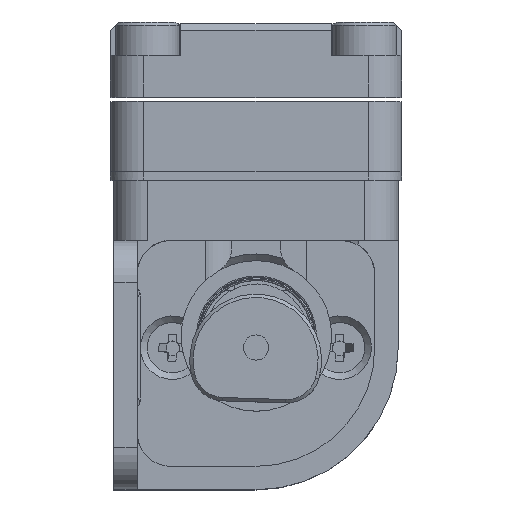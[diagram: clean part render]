
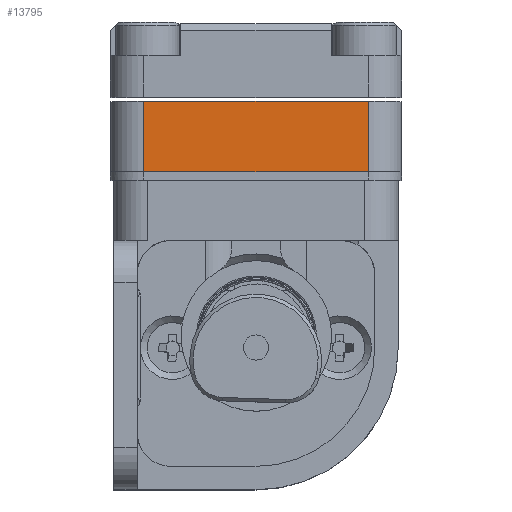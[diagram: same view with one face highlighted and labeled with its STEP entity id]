
A CAD part, top view. The second image highlights one B-rep face of the part: STEP entity #13795.
In plain terms, the highlighted planar face has unit normal (0, 0, -1).
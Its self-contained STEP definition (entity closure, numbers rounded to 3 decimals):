
#181 = LINE ( 'NONE', #10322, #2746 ) ;
#962 = EDGE_CURVE ( 'NONE', #4981, #7227, #12532, .T. ) ;
#1561 = VECTOR ( 'NONE', #13685, 1000. ) ;
#2034 = DIRECTION ( 'NONE',  ( 0., 0., -1. ) ) ;
#2181 = FACE_OUTER_BOUND ( 'NONE', #8153, .T. ) ;
#2316 = VERTEX_POINT ( 'NONE', #5889 ) ;
#2417 = LINE ( 'NONE', #9146, #12780 ) ;
#2746 = VECTOR ( 'NONE', #8212, 1000. ) ;
#3543 = VECTOR ( 'NONE', #5814, 1000. ) ;
#4261 = CARTESIAN_POINT ( 'NONE',  ( 8.7, 3.1, 8.7 ) ) ;
#4496 = CARTESIAN_POINT ( 'NONE',  ( 8.7, 7.3, 8.7 ) ) ;
#4658 = EDGE_CURVE ( 'NONE', #9859, #2316, #181, .T. ) ;
#4788 = ORIENTED_EDGE ( 'NONE', *, *, #12090, .T. ) ;
#4981 = VERTEX_POINT ( 'NONE', #6694 ) ;
#5151 = EDGE_CURVE ( 'NONE', #7227, #2316, #2417, .T. ) ;
#5814 = DIRECTION ( 'NONE',  ( 1., 0., 0. ) ) ;
#5889 = CARTESIAN_POINT ( 'NONE',  ( 6.7, 3.1, 8.7 ) ) ;
#6474 = CARTESIAN_POINT ( 'NONE',  ( 6.7, 7.3, 8.7 ) ) ;
#6536 = PLANE ( 'NONE',  #11622 ) ;
#6694 = CARTESIAN_POINT ( 'NONE',  ( -6.7, 7.3, 8.7 ) ) ;
#6900 = DIRECTION ( 'NONE',  ( 0., -1., 0. ) ) ;
#7227 = VERTEX_POINT ( 'NONE', #6474 ) ;
#7708 = ORIENTED_EDGE ( 'NONE', *, *, #5151, .T. ) ;
#8153 = EDGE_LOOP ( 'NONE', ( #7708, #8531, #4788, #13857 ) ) ;
#8212 = DIRECTION ( 'NONE',  ( 1., 0., 0. ) ) ;
#8531 = ORIENTED_EDGE ( 'NONE', *, *, #4658, .F. ) ;
#9146 = CARTESIAN_POINT ( 'NONE',  ( 6.7, 3.1, 8.7 ) ) ;
#9859 = VERTEX_POINT ( 'NONE', #10040 ) ;
#10040 = CARTESIAN_POINT ( 'NONE',  ( -6.7, 3.1, 8.7 ) ) ;
#10322 = CARTESIAN_POINT ( 'NONE',  ( 0., 3.1, 8.7 ) ) ;
#11622 = AXIS2_PLACEMENT_3D ( 'NONE', #4261, #2034, #13176 ) ;
#12090 = EDGE_CURVE ( 'NONE', #9859, #4981, #13612, .T. ) ;
#12510 = CARTESIAN_POINT ( 'NONE',  ( -6.7, 3.1, 8.7 ) ) ;
#12532 = LINE ( 'NONE', #4496, #3543 ) ;
#12780 = VECTOR ( 'NONE', #6900, 1000. ) ;
#13176 = DIRECTION ( 'NONE',  ( -1., 0., 0. ) ) ;
#13612 = LINE ( 'NONE', #12510, #1561 ) ;
#13685 = DIRECTION ( 'NONE',  ( 0., 1., 0. ) ) ;
#13795 = ADVANCED_FACE ( 'NONE', ( #2181 ), #6536, .T. ) ;
#13857 = ORIENTED_EDGE ( 'NONE', *, *, #962, .T. ) ;
